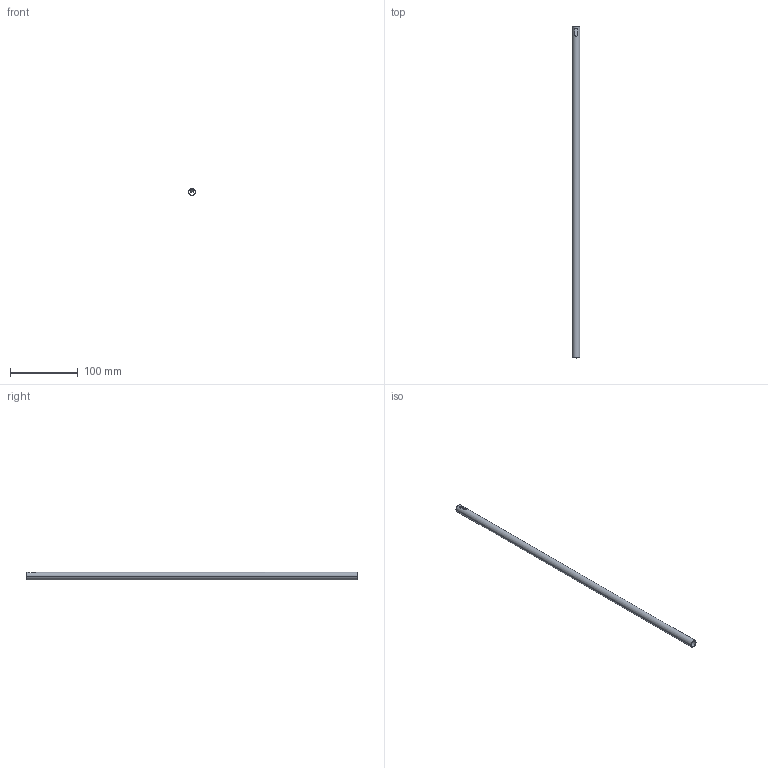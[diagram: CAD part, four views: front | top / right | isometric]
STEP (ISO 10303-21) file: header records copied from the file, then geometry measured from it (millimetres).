
FILE_DESCRIPTION (( 'STEP AP214' ), '1' );
FILE_NAME ('Relingsrohr_2S-Rundrel_Interwood_P760604300_520.step', '2010-09-07T12:59:35', ( 'grass' ), ( '' ), 'SwSTEP 2.0', 'SolidWorks 2010', '' );
FILE_SCHEMA (( 'AUTOMOTIVE_DESIGN' ));
Length unit declared in the file: millimetre
Products named in the file (1): Relingsrohr_2S-Rundrel_Interwood_P760604300_520
Bounding box: 11 x 489 x 11 mm (x, y, z)
Volume: 15360.1 mm3; surface area: 30828.1 mm2
Topology: 1 solids, 1 shells, 14 faces, 34 edges, 22 vertices
Faces by surface type: plane 10, cylinder 4
Entity records: 476 total; most frequent: CARTESIAN_POINT 77, DIRECTION 72, ORIENTED_EDGE 68, EDGE_CURVE 34, AXIS2_PLACEMENT_3D 25, LINE 22, VECTOR 22, VERTEX_POINT 22
